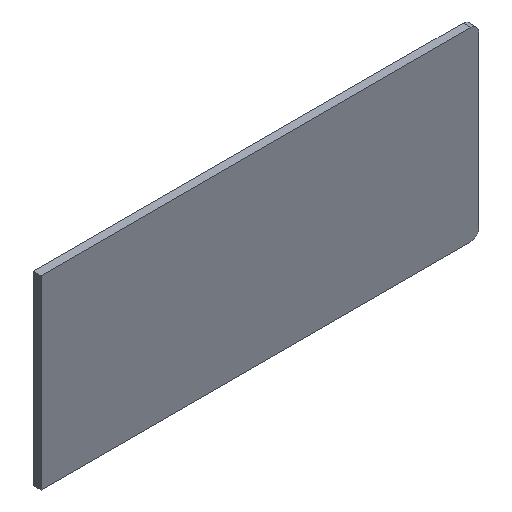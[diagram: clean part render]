
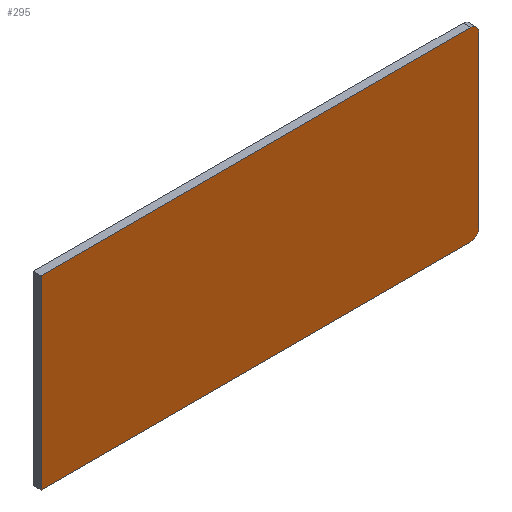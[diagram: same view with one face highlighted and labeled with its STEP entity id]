
A CAD part, isometric view. The second image highlights one B-rep face of the part: STEP entity #295.
In plain terms, the highlighted planar face has unit normal (0, -1, 0).
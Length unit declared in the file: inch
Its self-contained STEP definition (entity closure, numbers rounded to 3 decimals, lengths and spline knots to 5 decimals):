
#5 = CARTESIAN_POINT ( 'NONE',  ( 3.375, 0., 1.36 ) ) ;
#9 = EDGE_CURVE ( 'NONE', #168, #37, #81, .T. ) ;
#17 = LINE ( 'NONE', #44, #30 ) ;
#24 = CARTESIAN_POINT ( 'NONE',  ( 0., 0., 0. ) ) ;
#30 = VECTOR ( 'NONE', #42, 39.37008 ) ;
#33 = DIRECTION ( 'NONE',  ( 0., -1., 0. ) ) ;
#35 = CARTESIAN_POINT ( 'NONE',  ( 3.5, 0., -1.36 ) ) ;
#37 = VERTEX_POINT ( 'NONE', #298 ) ;
#42 = DIRECTION ( 'NONE',  ( 1., 0., 0. ) ) ;
#44 = CARTESIAN_POINT ( 'NONE',  ( -3.5, 0., 1.485 ) ) ;
#53 = EDGE_CURVE ( 'NONE', #259, #37, #17, .T. ) ;
#55 = DIRECTION ( 'NONE',  ( 0., 0., -1. ) ) ;
#64 = EDGE_CURVE ( 'NONE', #168, #94, #165, .T. ) ;
#70 = AXIS2_PLACEMENT_3D ( 'NONE', #5, #170, #115 ) ;
#80 = ORIENTED_EDGE ( 'NONE', *, *, #253, .F. ) ;
#81 = CIRCLE ( 'NONE', #70, 0.125 ) ;
#82 = ORIENTED_EDGE ( 'NONE', *, *, #64, .F. ) ;
#85 = CARTESIAN_POINT ( 'NONE',  ( -3.5, 0., 1.485 ) ) ;
#89 = LINE ( 'NONE', #85, #104 ) ;
#94 = VERTEX_POINT ( 'NONE', #35 ) ;
#95 = ORIENTED_EDGE ( 'NONE', *, *, #243, .T. ) ;
#98 = DIRECTION ( 'NONE',  ( 0., 0., 1. ) ) ;
#101 = FACE_OUTER_BOUND ( 'NONE', #119, .T. ) ;
#104 = VECTOR ( 'NONE', #98, 39.37008 ) ;
#115 = DIRECTION ( 'NONE',  ( 0., 0., -1. ) ) ;
#119 = EDGE_LOOP ( 'NONE', ( #80, #95, #82, #133, #125, #203 ) ) ;
#120 = CARTESIAN_POINT ( 'NONE',  ( 3.375, 0., -1.485 ) ) ;
#124 = CARTESIAN_POINT ( 'NONE',  ( 3.5, 0., 1.36 ) ) ;
#125 = ORIENTED_EDGE ( 'NONE', *, *, #53, .F. ) ;
#130 = PLANE ( 'NONE',  #193 ) ;
#133 = ORIENTED_EDGE ( 'NONE', *, *, #9, .T. ) ;
#146 = CARTESIAN_POINT ( 'NONE',  ( 3.375, 0., -1.36 ) ) ;
#155 = CARTESIAN_POINT ( 'NONE',  ( -3.5, 0., 1.485 ) ) ;
#164 = DIRECTION ( 'NONE',  ( 0., 0., -1. ) ) ;
#165 = LINE ( 'NONE', #224, #277 ) ;
#168 = VERTEX_POINT ( 'NONE', #124 ) ;
#170 = DIRECTION ( 'NONE',  ( 0., -1., 0. ) ) ;
#173 = VERTEX_POINT ( 'NONE', #120 ) ;
#177 = CIRCLE ( 'NONE', #261, 0.125 ) ;
#187 = DIRECTION ( 'NONE',  ( 0., 0., -1. ) ) ;
#193 = AXIS2_PLACEMENT_3D ( 'NONE', #24, #33, #55 ) ;
#203 = ORIENTED_EDGE ( 'NONE', *, *, #288, .F. ) ;
#212 = CARTESIAN_POINT ( 'NONE',  ( -3.5, 0., -1.485 ) ) ;
#214 = VECTOR ( 'NONE', #279, 39.37008 ) ;
#224 = CARTESIAN_POINT ( 'NONE',  ( 3.5, 0., 1.485 ) ) ;
#243 = EDGE_CURVE ( 'NONE', #173, #94, #177, .T. ) ;
#253 = EDGE_CURVE ( 'NONE', #173, #309, #299, .T. ) ;
#259 = VERTEX_POINT ( 'NONE', #155 ) ;
#261 = AXIS2_PLACEMENT_3D ( 'NONE', #146, #301, #164 ) ;
#277 = VECTOR ( 'NONE', #187, 39.37008 ) ;
#279 = DIRECTION ( 'NONE',  ( -1., 0., 0. ) ) ;
#281 = CARTESIAN_POINT ( 'NONE',  ( -3.5, 0., -1.485 ) ) ;
#288 = EDGE_CURVE ( 'NONE', #309, #259, #89, .T. ) ;
#295 = ADVANCED_FACE ( 'NONE', ( #101 ), #130, .T. ) ;
#298 = CARTESIAN_POINT ( 'NONE',  ( 3.375, 0., 1.485 ) ) ;
#299 = LINE ( 'NONE', #281, #214 ) ;
#301 = DIRECTION ( 'NONE',  ( 0., -1., 0. ) ) ;
#309 = VERTEX_POINT ( 'NONE', #212 ) ;
